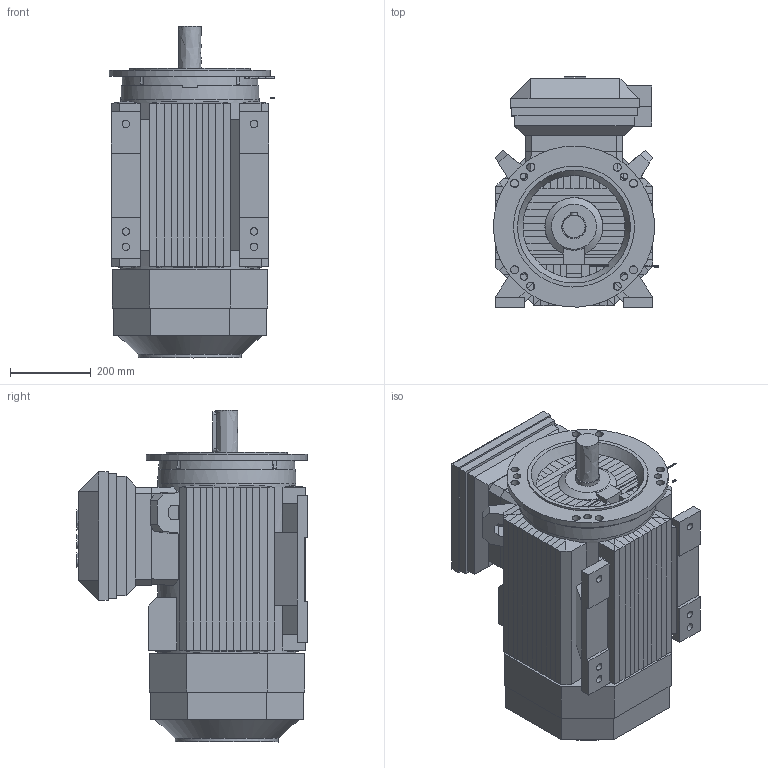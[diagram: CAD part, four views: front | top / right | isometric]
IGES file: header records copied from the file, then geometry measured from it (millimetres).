
Global section: file name: C:\Temp\3GZF500120-187.igs; preprocessor: I-DEAS 3D IGES Translator 16; date: 20150424.103345; units: millimetre
Bounding box: 410.03 x 573 x 824 mm (x, y, z)
Volume: 101760514.9 mm3; surface area: 1854528.4 mm2
Topology: 2 solids, 2 shells, 540 faces, 1400 edges, 881 vertices
Faces by surface type: bspline 540
